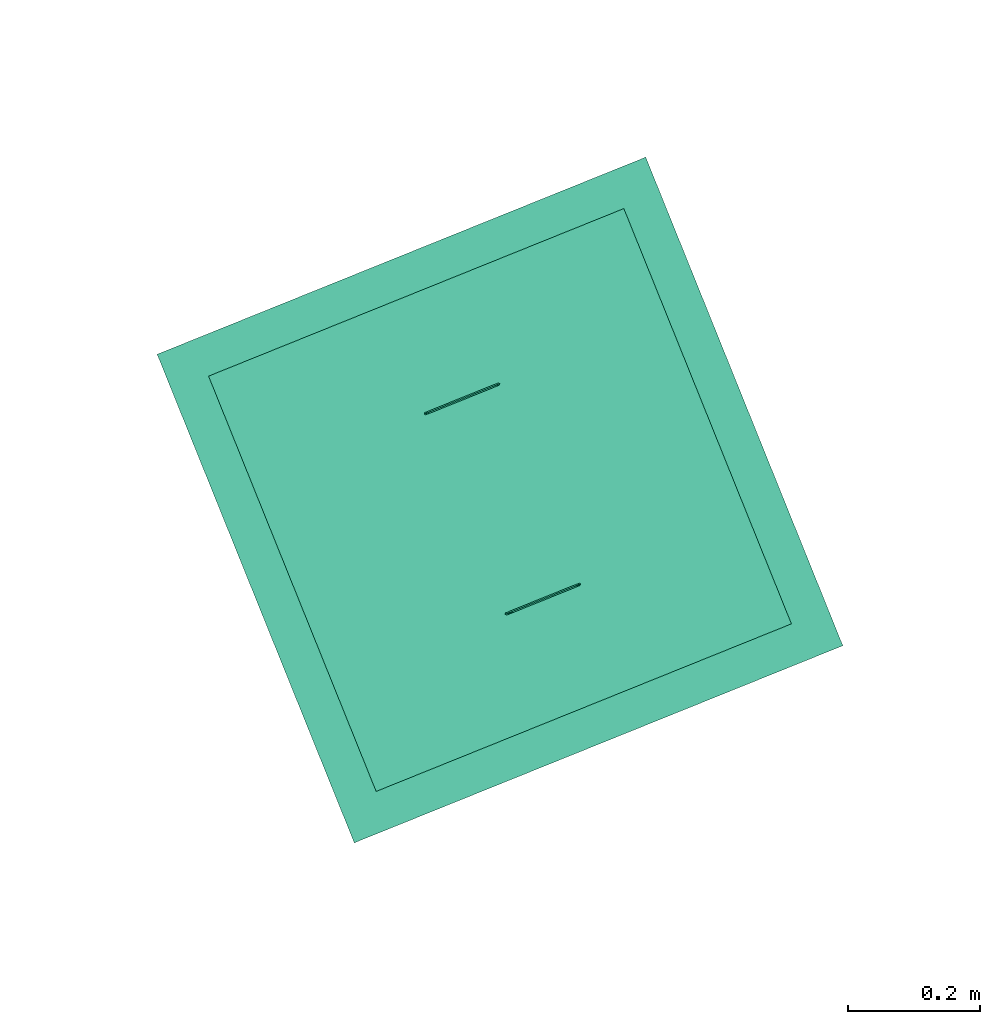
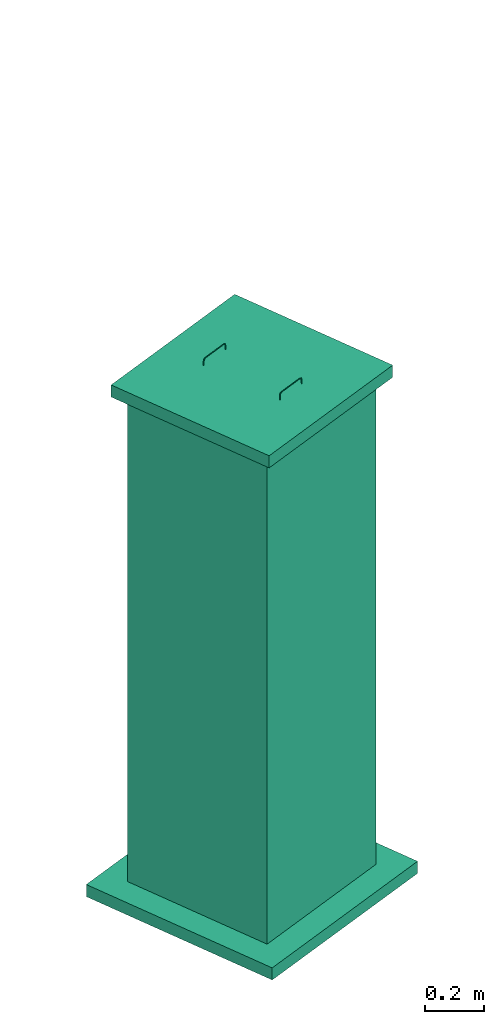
# One storey, part 90 of 97: 1 flow terminal.
"""IFC2X3 building model written with IfcOpenShell, lengths in centimetres."""

from ifc_helpers import new_model, entity, si_unit, converted_unit, derived_unit, direction, frame, origin, place, context, subcontext, project, spatial, faceted_brep, source, transform, mapped, material, material_list, type_object, type_shapes, element, save


model = new_model("IFC2X3")

# Units and contexts
model_context = context("Model", 3, precision=0.001, world=origin(), true_north=direction((6.12303176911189e-17, 1.0)))
body_context = subcontext(model_context, "Body", "Model", "MODEL_VIEW")
ifc_project = project(units=[si_unit("LENGTHUNIT", "METRE", prefix="CENTI"), si_unit("AREAUNIT", "SQUARE_METRE"), si_unit("VOLUMEUNIT", "CUBIC_METRE"), converted_unit("PLANEANGLEUNIT", "DEGREE", entity("IfcRatioMeasure", 0.0174532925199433), si_unit("PLANEANGLEUNIT", "RADIAN"), dimensions=[0, 0, 0, 0, 0, 0, 0]), si_unit("MASSUNIT", "GRAM", prefix="KILO"), derived_unit("MASSDENSITYUNIT", [(si_unit("MASSUNIT", "GRAM", prefix="KILO"), 1), (si_unit("LENGTHUNIT", "METRE"), -3)]), derived_unit("MOMENTOFINERTIAUNIT", [(si_unit("LENGTHUNIT", "METRE"), 4)]), si_unit("TIMEUNIT", "SECOND"), si_unit("FREQUENCYUNIT", "HERTZ"), si_unit("THERMODYNAMICTEMPERATUREUNIT", "DEGREE_CELSIUS"), derived_unit("THERMALTRANSMITTANCEUNIT", [(si_unit("MASSUNIT", "GRAM", prefix="KILO"), 1), (si_unit("THERMODYNAMICTEMPERATUREUNIT", "KELVIN"), -1), (si_unit("TIMEUNIT", "SECOND"), -3)]), derived_unit("VOLUMETRICFLOWRATEUNIT", [(si_unit("LENGTHUNIT", "METRE"), 3), (si_unit("TIMEUNIT", "SECOND"), -1)]), si_unit("ELECTRICCURRENTUNIT", "AMPERE"), si_unit("ELECTRICVOLTAGEUNIT", "VOLT"), si_unit("POWERUNIT", "WATT"), si_unit("FORCEUNIT", "NEWTON", prefix="KILO"), si_unit("ILLUMINANCEUNIT", "LUX"), si_unit("LUMINOUSFLUXUNIT", "LUMEN"), si_unit("LUMINOUSINTENSITYUNIT", "CANDELA"), derived_unit("USERDEFINED", [(si_unit("MASSUNIT", "GRAM", prefix="KILO"), -1), (si_unit("LENGTHUNIT", "METRE"), -2), (si_unit("TIMEUNIT", "SECOND"), 3), (si_unit("LUMINOUSFLUXUNIT", "LUMEN"), 1)]), derived_unit("LINEARVELOCITYUNIT", [(si_unit("LENGTHUNIT", "METRE"), 1), (si_unit("TIMEUNIT", "SECOND"), -1)]), si_unit("PRESSUREUNIT", "PASCAL"), derived_unit("USERDEFINED", [(si_unit("LENGTHUNIT", "METRE"), -2), (si_unit("MASSUNIT", "GRAM", prefix="KILO"), 1), (si_unit("TIMEUNIT", "SECOND"), -2)]), derived_unit("LINEARFORCEUNIT", [(si_unit("MASSUNIT", "GRAM", prefix="KILO"), 1), (si_unit("LENGTHUNIT", "METRE"), 1), (si_unit("TIMEUNIT", "SECOND"), -2), (si_unit("LENGTHUNIT", "METRE"), -1)]), derived_unit("PLANARFORCEUNIT", [(si_unit("MASSUNIT", "GRAM", prefix="KILO"), 1), (si_unit("LENGTHUNIT", "METRE"), 1), (si_unit("TIMEUNIT", "SECOND"), -2), (si_unit("LENGTHUNIT", "METRE"), -2)])], contexts=[model_context])

# Site, building, storey
site_placement = place(None, origin())
site = spatial("IfcSite", under=ifc_project, at=site_placement, Name="Default", CompositionType="ELEMENT")
building_placement = place(site_placement, origin())
building = spatial("IfcBuilding", under=site, at=building_placement, Name="HIDROSSANITÁRIO", CompositionType="ELEMENT")
storey_placement = place(building_placement, frame((0.0, 0.0, -260.0)))
storey = spatial("IfcBuildingStorey", under=building, at=storey_placement, Name="TÉRREO-HID", CompositionType="ELEMENT", Elevation=-260.0)

# Flow terminal
ifc_material_1 = material(Name="<Unnamed>")
ifc_material_2 = material(Name="Concrete, Sand/Cement Screed")
ifc_material_3 = material(Name="Brick, Common, Grey")
ifc_material_list_1 = material_list([ifc_material_1, ifc_material_2, ifc_material_3])
ifc_material_list_2 = material_list([ifc_material_1, ifc_material_2, ifc_material_3])
distribution_element_type = type_object("IfcDistributionElementType", Name="Caixa de Inspeção/Gordura:Alvenaria", material=ifc_material_list_2)
shared_shape = source(origin(), body_context, "Body", "Brep", [
    faceted_brep([(-5.60146522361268, 16.5924553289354, 3.71042168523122), (-5.40613785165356, 16.3971279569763, 3.71042168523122), (-5.60146522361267, 16.2018005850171, 3.71042168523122), (-5.79679259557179, 16.3971279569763, 3.71042168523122), (6.39853477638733, 16.2018005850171, 3.71042168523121), (6.20320740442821, 16.3971279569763, 3.71042168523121), (6.39853477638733, 16.5924553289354, 3.71042168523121), (6.59386214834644, 16.3971279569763, 3.71042168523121), (-5.40613785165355, 16.3971279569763, 5.27042602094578), (-5.57070403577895, 16.2042380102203, 5.71042174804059), (-5.79679259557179, 16.3971279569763, 5.27042593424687), (-5.40613785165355, 16.3971279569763, 7.71042168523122), (-5.60146522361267, 16.2018005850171, 7.71042168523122), (-5.40613785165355, 16.3971279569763, 6.1504173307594), (-5.79679259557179, 16.3971279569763, 7.71042168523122), (-5.60146522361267, 16.5924553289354, 7.71042168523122), (-5.63222641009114, 16.5900179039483, 5.71042169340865), (-5.68947233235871, 16.5044482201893, 7.71042168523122), (-5.25102598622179, 16.2195619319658, 8.35998244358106), (-5.37993713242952, 16.2298951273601, 8.48889359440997), (-4.60146522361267, 16.3971279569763, 8.90574905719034), (-4.60146522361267, 16.2018005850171, 8.71042168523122), (-5.17045469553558, 16.3971279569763, 8.27941115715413), (-4.60146522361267, 16.3971279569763, 8.5150943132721), (-5.44668931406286, 16.3971279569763, 8.55564577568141), (-5.36898819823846, 16.5727768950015, 8.47794465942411), (-5.21737432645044, 16.5627205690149, 8.36172681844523), (-4.60146522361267, 16.5924553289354, 8.71042168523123), (0.518543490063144, 16.3971279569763, 8.90574905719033), (1.73854147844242, 16.2018005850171, 8.71042168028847), (2.95853913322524, 16.3971279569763, 8.90574905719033), (-0.76461087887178, 16.2018577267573, 8.71514602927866), (-2.16146960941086, 16.3971279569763, 8.5150943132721), (0.278526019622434, 16.3971279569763, 8.5150943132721), (0.398534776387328, 16.3971279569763, 8.5150943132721), (-2.16146958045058, 16.3971279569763, 8.90574905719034), (5.39853477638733, 16.2018005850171, 8.71042168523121), (5.39853477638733, 16.3971279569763, 8.90574905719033), (2.95853916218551, 16.3971279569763, 8.5150943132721), (5.39853477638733, 16.3971279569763, 8.51509431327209), (0.398534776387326, 16.3971279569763, 8.90574905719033), (1.56168082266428, 16.5923981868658, 8.70569732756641), (-0.941471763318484, 16.5924553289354, 8.71042168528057), (5.39853477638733, 16.5924553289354, 8.71042168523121), (5.39853477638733, 16.5044482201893, 8.79842879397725), (6.04809553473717, 16.2195619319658, 8.35998244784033), (6.17700668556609, 16.2298951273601, 8.48889359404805), (6.59386214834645, 16.3971279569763, 7.71042168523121), (6.39853477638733, 16.2018005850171, 7.71042168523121), (5.96752424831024, 16.3971279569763, 8.27941115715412), (6.20320740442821, 16.3971279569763, 7.71042168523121), (6.24375886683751, 16.3971279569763, 8.5556457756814), (6.16605775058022, 16.5727768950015, 8.477944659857), (6.04983990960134, 16.5627205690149, 8.32633078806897), (6.39853477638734, 16.5924553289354, 7.71042168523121), (6.20320740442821, 16.3971279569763, 6.15041734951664), (6.36777358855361, 16.2042380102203, 5.71042162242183), (6.59386214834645, 16.3971279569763, 6.15041743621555), (6.20320740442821, 16.3971279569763, 5.27042603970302), (6.4292959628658, 16.5900179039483, 5.71042167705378)], [[[0, 1, 2, 3]], [[4, 5, 6, 7]], [[8, 9, 2]], [[2, 10, 3]], [[10, 2, 9]], [[11, 12, 9]], [[8, 2, 1]], [[9, 8, 13, 11]], [[9, 12, 14]], [[14, 10, 9]], [[13, 15, 11]], [[0, 10, 16]], [[14, 16, 10]], [[10, 0, 3]], [[16, 13, 8, 1]], [[13, 16, 15]], [[1, 0, 16]], [[16, 14, 17, 15]], [[12, 18, 19]], [[20, 19, 21]], [[14, 12, 19]], [[11, 22, 18]], [[23, 21, 18]], [[14, 19, 24]], [[24, 19, 20]], [[23, 18, 22]], [[19, 18, 21]], [[11, 18, 12]], [[17, 14, 24]], [[25, 26, 15]], [[25, 15, 17]], [[11, 15, 26]], [[25, 27, 26]], [[20, 25, 24]], [[20, 27, 25]], [[26, 22, 11]], [[22, 26, 23]], [[17, 24, 25]], [[23, 26, 27]], [[28, 29, 30]], [[31, 32, 33, 34]], [[35, 20, 21]], [[36, 37, 30]], [[29, 28, 31]], [[38, 39, 36]], [[21, 23, 32]], [[34, 29, 31]], [[32, 31, 21]], [[30, 29, 36]], [[34, 38, 29]], [[36, 29, 38]], [[31, 28, 40, 35]], [[31, 35, 21]], [[40, 41, 42]], [[43, 39, 38]], [[27, 42, 33, 32, 23]], [[27, 20, 35, 40, 42]], [[30, 37, 44, 43]], [[38, 41, 43]], [[30, 43, 41]], [[42, 41, 33]], [[41, 40, 28, 30]], [[41, 38, 34, 33]], [[36, 45, 46]], [[47, 46, 48]], [[37, 36, 46]], [[39, 49, 45]], [[50, 48, 45]], [[37, 46, 51]], [[51, 46, 47]], [[50, 45, 49]], [[46, 45, 48]], [[39, 45, 36]], [[44, 37, 51]], [[52, 53, 43]], [[52, 43, 44]], [[39, 43, 53]], [[52, 54, 53]], [[47, 52, 51]], [[47, 54, 52]], [[53, 49, 39]], [[49, 53, 50]], [[44, 51, 52]], [[50, 53, 54]], [[55, 56, 48]], [[48, 57, 47]], [[57, 48, 56]], [[5, 4, 56]], [[55, 48, 50]], [[56, 55, 58, 5]], [[56, 4, 7]], [[7, 57, 56]], [[58, 6, 5]], [[54, 57, 59]], [[7, 59, 57]], [[57, 54, 47]], [[59, 58, 55, 50]], [[58, 59, 6]], [[50, 54, 59]], [[7, 6, 59]]]),
    faceted_brep([(-5.60146522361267, -16.5924553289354, 3.71042168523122), (-5.79679259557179, -16.3971279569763, 3.71042168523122), (-5.60146522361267, -16.2018005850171, 3.71042168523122), (-5.40613785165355, -16.3971279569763, 3.71042168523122), (6.39853477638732, -16.2018005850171, 3.71042168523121), (6.59386214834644, -16.3971279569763, 3.71042168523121), (6.39853477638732, -16.5924553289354, 3.71042168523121), (6.20320740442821, -16.3971279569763, 3.71042168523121), (-5.79679259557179, -16.3971279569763, 6.15041737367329), (-5.60146522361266, -16.5924553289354, 7.71042168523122), (-5.68947233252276, -16.5044482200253, 7.71042168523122), (-5.79679259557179, -16.3971279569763, 7.71042168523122), (-5.40613785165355, -16.3971279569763, 5.27042602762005), (-5.5707040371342, -16.5900179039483, 5.71042169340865), (-5.40613785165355, -16.3971279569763, 7.71042168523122), (-5.79679259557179, -16.3971279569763, 5.27042602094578), (-5.51345811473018, -16.5044482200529, 7.71042168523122), (-5.63222641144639, -16.2042380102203, 5.71042174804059), (-5.60146522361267, -16.2018005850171, 7.71042168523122), (-5.37028554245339, -16.5521831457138, 8.52319636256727), (-5.44668931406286, -16.3971279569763, 8.55564577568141), (-5.17045469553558, -16.3971279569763, 8.27941115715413), (-4.60146522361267, -16.3971279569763, 8.5150943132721), (-4.60146522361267, -16.5044482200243, 8.62241457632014), (-4.60146522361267, -16.5924553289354, 8.71042168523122), (-4.60146522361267, -16.5044482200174, 8.79842879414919), (-5.27261908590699, -16.5857215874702, 8.3815755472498), (-4.60146522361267, -16.3971279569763, 8.90574905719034), (-5.23720687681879, -16.2298951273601, 8.34616333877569), (-4.60146522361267, -16.2018005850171, 8.71042168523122), (-5.36611802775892, -16.2195619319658, 8.4750744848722), (0.398534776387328, -16.3971279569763, 8.5150943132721), (1.56168082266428, -16.5923981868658, 8.71514604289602), (-0.941471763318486, -16.5924553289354, 8.71042168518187), (2.95853912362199, -16.3971279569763, 8.90574905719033), (5.39853477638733, -16.5924553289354, 8.71042168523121), (5.39853477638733, -16.5044482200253, 8.7984287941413), (5.39853477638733, -16.3971279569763, 8.90574905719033), (0.278526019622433, -16.3971279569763, 8.90574905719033), (-2.16146957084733, -16.3971279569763, 8.90574905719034), (-2.16146960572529, -16.3971279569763, 8.5150943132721), (2.95853915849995, -16.3971279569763, 8.51509431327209), (5.39853477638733, -16.3971279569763, 8.51509431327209), (5.39853477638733, -16.5044482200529, 8.62241457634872), (0.518543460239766, -16.3971279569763, 8.5150943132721), (0.398534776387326, -16.3971279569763, 8.90574905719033), (1.73854147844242, -16.2018005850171, 8.71042169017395), (-0.76461087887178, -16.2018577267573, 8.70569734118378), (5.39853477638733, -16.2018005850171, 8.71042168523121), (6.21130945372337, -16.5521831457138, 8.47924200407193), (6.24375886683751, -16.3971279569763, 8.5556457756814), (5.96752424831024, -16.3971279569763, 8.27941115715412), (6.20320740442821, -16.3971279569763, 7.71042168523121), (6.31052766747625, -16.5044482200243, 7.71042168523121), (6.39853477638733, -16.5924553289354, 7.71042168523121), (6.4865418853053, -16.5044482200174, 7.71042168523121), (6.06968863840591, -16.5857215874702, 8.38157554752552), (6.59386214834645, -16.3971279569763, 7.71042168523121), (6.03427642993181, -16.2298951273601, 8.34616333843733), (6.39853477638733, -16.2018005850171, 7.71042168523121), (6.16318757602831, -16.2195619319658, 8.47507448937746), (6.59386214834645, -16.3971279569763, 5.27042599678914), (6.20320740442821, -16.3971279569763, 6.15041726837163), (6.36777358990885, -16.5900179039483, 5.71042167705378), (6.59386214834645, -16.3971279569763, 6.15041734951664), (6.42929596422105, -16.2042380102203, 5.71042162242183)], [[[0, 1, 2, 3]], [[4, 5, 6, 7]], [[8, 9, 10, 11]], [[0, 12, 13]], [[14, 13, 12]], [[12, 0, 3]], [[13, 8, 15, 1]], [[8, 13, 9]], [[1, 0, 13]], [[13, 14, 16, 9]], [[15, 17, 2]], [[2, 12, 3]], [[12, 2, 17]], [[11, 18, 17]], [[15, 2, 1]], [[17, 15, 8, 11]], [[17, 18, 14]], [[14, 12, 17]], [[19, 10, 9]], [[10, 19, 20]], [[21, 22, 23]], [[24, 25, 19]], [[24, 26, 23]], [[24, 19, 26]], [[16, 26, 9]], [[20, 25, 27]], [[20, 11, 10]], [[23, 26, 21]], [[19, 25, 20]], [[14, 21, 16]], [[26, 19, 9]], [[26, 16, 21]], [[22, 28, 29]], [[18, 30, 28]], [[14, 28, 21]], [[14, 18, 28]], [[11, 20, 30]], [[27, 30, 20]], [[27, 29, 30]], [[11, 30, 18]], [[21, 28, 22]], [[28, 30, 29]], [[31, 32, 33]], [[34, 35, 36, 37]], [[24, 33, 38, 39, 27, 25]], [[40, 31, 33, 24, 23, 22]], [[41, 42, 43, 35]], [[34, 32, 35]], [[41, 35, 32]], [[33, 32, 38]], [[32, 31, 44, 41]], [[32, 34, 45, 38]], [[44, 46, 41]], [[47, 39, 38, 45]], [[40, 22, 29]], [[48, 42, 41]], [[46, 44, 47]], [[34, 37, 48]], [[29, 27, 39]], [[45, 46, 47]], [[39, 47, 29]], [[41, 46, 48]], [[45, 34, 46]], [[48, 46, 34]], [[47, 44, 31, 40]], [[47, 40, 29]], [[49, 36, 35]], [[36, 49, 50]], [[51, 52, 53]], [[54, 55, 49]], [[54, 56, 53]], [[54, 49, 56]], [[43, 56, 35]], [[50, 55, 57]], [[50, 37, 36]], [[53, 56, 51]], [[49, 55, 50]], [[42, 51, 43]], [[56, 49, 35]], [[56, 43, 51]], [[52, 58, 59]], [[48, 60, 58]], [[42, 58, 51]], [[42, 48, 58]], [[37, 50, 60]], [[57, 60, 50]], [[57, 59, 60]], [[37, 60, 48]], [[51, 58, 52]], [[58, 60, 59]], [[61, 6, 5]], [[54, 62, 63]], [[7, 63, 62]], [[62, 54, 53, 52]], [[63, 61, 64, 57]], [[61, 63, 6]], [[63, 57, 55, 54]], [[7, 6, 63]], [[64, 65, 59]], [[59, 62, 52]], [[62, 59, 65]], [[5, 4, 65]], [[64, 59, 57]], [[65, 64, 61, 5]], [[65, 4, 7]], [[7, 62, 65]]]),
    faceted_brep([(34.0, 34.0, 6.0), (-34.0, 34.0, 6.0), (-34.0, -34.0, 6.0), (34.0, -34.0, 6.0), (34.0, 34.0, 1.0), (34.0, -34.0, 1.0), (-34.0, -34.0, 1.0), (-34.0, 34.0, 1.0)], [[[0, 1, 2, 3]], [[4, 5, 6, 7]], [[1, 0, 4, 7]], [[2, 1, 7, 6]], [[3, 2, 6, 5]], [[0, 3, 5, 4]]]),
    faceted_brep([(40.0, 40.0, -200.0), (-40.0, 40.0, -200.0), (-40.0, -40.0, -200.0), (40.0, -40.0, -200.0), (40.0, 40.0, -205.0), (40.0, -40.0, -205.0), (-40.0, -40.0, -205.0), (-40.0, 40.0, -205.0)], [[[0, 1, 2, 3]], [[4, 5, 6, 7]], [[1, 0, 4, 7]], [[2, 1, 7, 6]], [[3, 2, 6, 5]], [[0, 3, 5, 4]]]),
    faceted_brep([(25.0, 25.0, 1.0), (25.0, -25.0, 1.0), (-25.0, -25.0, 1.0), (-25.0, 25.0, 1.0), (30.0, 30.0, 1.0), (-30.0, 30.0, 1.0), (-30.0, -30.0, 1.0), (30.0, -30.0, 1.0), (25.0, 25.0, -200.0), (-25.0, 25.0, -200.0), (-25.0, -25.0, -200.0), (25.0, -25.0, -200.0), (30.0, 30.0, -200.0), (30.0, -30.0, -200.0), (-30.0, -30.0, -200.0), (-30.0, 30.0, -200.0)], [[[0, 1, 2, 3], [4, 5, 6, 7]], [[8, 9, 10, 11], [12, 13, 14, 15]], [[1, 0, 8, 11]], [[2, 1, 11, 10]], [[3, 2, 10, 9]], [[0, 3, 9, 8]], [[5, 4, 12, 15]], [[6, 5, 15, 14]], [[7, 6, 14, 13]], [[4, 7, 13, 12]]], outer=[[False, True], [False, True], [True], [True], [True], [True], [True], [True], [True], [True]]),
])
type_shapes(distribution_element_type, [shared_shape])
flow_terminal_placement = place(storey_placement, frame((-1293.05313030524, 183.672507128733, 130.0), z_axis=(0.0, 0.0, 1.0), x_axis=(0.927348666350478, 0.374198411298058, 0.0)))
element("IfcFlowTerminal", 1, at=flow_terminal_placement, inside=storey, type_object=distribution_element_type, material=ifc_material_list_1, Name="Caixa de Inspeção/Gordura:Alvenaria", ObjectType="Caixa de Inspeção/Gordura:Alvenaria", context=body_context, shape_type="MappedRepresentation", body=[
    mapped(shared_shape, transform((0.0, 0.0, 0.0), scale=1.0)),
])

save(model, "model.ifc")
